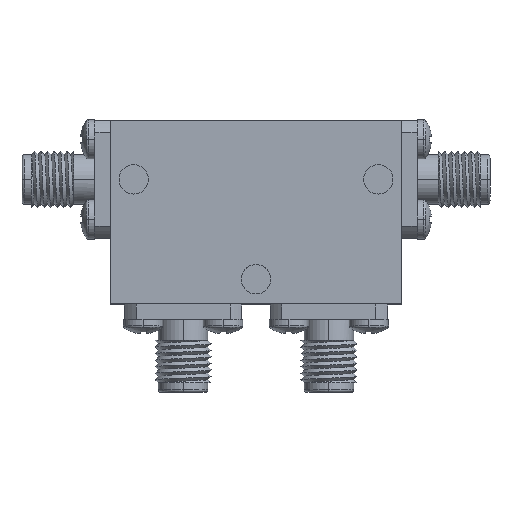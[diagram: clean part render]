
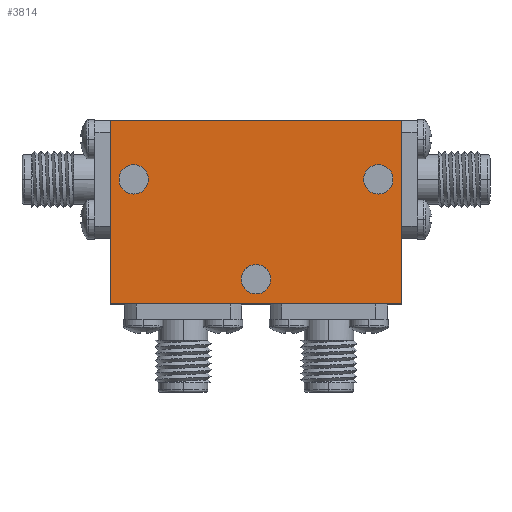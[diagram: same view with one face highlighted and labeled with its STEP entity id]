
A CAD part, top view. The second image highlights one B-rep face of the part: STEP entity #3814.
In plain terms, the highlighted planar face has unit normal (0, 0, 1).
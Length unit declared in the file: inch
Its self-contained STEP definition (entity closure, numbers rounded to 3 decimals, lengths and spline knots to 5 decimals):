
#72 = EDGE_CURVE ( 'NONE', #1441, #2003, #3318, .T. ) ;
#84 = CARTESIAN_POINT ( 'NONE',  ( -0.62, -0.39, 0.25 ) ) ;
#116 = ORIENTED_EDGE ( 'NONE', *, *, #3579, .F. ) ;
#128 = VERTEX_POINT ( 'NONE', #2530 ) ;
#136 = EDGE_CURVE ( 'NONE', #2542, #3830, #1531, .T. ) ;
#142 = DIRECTION ( 'NONE',  ( 1., 0., 0. ) ) ;
#237 = ORIENTED_EDGE ( 'NONE', *, *, #3018, .T. ) ;
#250 = VECTOR ( 'NONE', #2121, 39.37008 ) ;
#255 = ORIENTED_EDGE ( 'NONE', *, *, #2387, .F. ) ;
#257 = PLANE ( 'NONE',  #2632 ) ;
#288 = CARTESIAN_POINT ( 'NONE',  ( 0.52, 0.14, 0.25 ) ) ;
#360 = VECTOR ( 'NONE', #427, 39.37008 ) ;
#377 = CARTESIAN_POINT ( 'NONE',  ( -0.5825, 0.14, 0.25 ) ) ;
#382 = ORIENTED_EDGE ( 'NONE', *, *, #72, .F. ) ;
#400 = AXIS2_PLACEMENT_3D ( 'NONE', #288, #2020, #3823 ) ;
#427 = DIRECTION ( 'NONE',  ( 1., 0., 0. ) ) ;
#448 = LINE ( 'NONE', #84, #360 ) ;
#454 = CARTESIAN_POINT ( 'NONE',  ( -0.62, 0.39, 0.25 ) ) ;
#520 = CARTESIAN_POINT ( 'NONE',  ( 0.5825, 0.14, 0.25 ) ) ;
#532 = DIRECTION ( 'NONE',  ( 0., 0., 1. ) ) ;
#556 = CARTESIAN_POINT ( 'NONE',  ( 0., -0.285, 0.25 ) ) ;
#615 = AXIS2_PLACEMENT_3D ( 'NONE', #1278, #1561, #142 ) ;
#635 = VECTOR ( 'NONE', #2834, 39.37008 ) ;
#661 = CARTESIAN_POINT ( 'NONE',  ( 0., -0.285, 0.25 ) ) ;
#663 = AXIS2_PLACEMENT_3D ( 'NONE', #556, #890, #3583 ) ;
#757 = EDGE_LOOP ( 'NONE', ( #2874, #116 ) ) ;
#758 = CARTESIAN_POINT ( 'NONE',  ( 0.62, 0.39, 0.25 ) ) ;
#797 = CARTESIAN_POINT ( 'NONE',  ( -0.52, 0.14, 0.25 ) ) ;
#861 = CIRCLE ( 'NONE', #615, 0.0625 ) ;
#890 = DIRECTION ( 'NONE',  ( 0., 0., 1. ) ) ;
#968 = VERTEX_POINT ( 'NONE', #1453 ) ;
#1043 = EDGE_CURVE ( 'NONE', #2003, #1441, #2095, .T. ) ;
#1138 = CARTESIAN_POINT ( 'NONE',  ( -0.52, 0.14, 0.25 ) ) ;
#1168 = DIRECTION ( 'NONE',  ( 0., 0., 1. ) ) ;
#1178 = EDGE_LOOP ( 'NONE', ( #255, #2326 ) ) ;
#1188 = LINE ( 'NONE', #758, #3672 ) ;
#1197 = DIRECTION ( 'NONE',  ( 1., 0., 0. ) ) ;
#1278 = CARTESIAN_POINT ( 'NONE',  ( 0.52, 0.14, 0.25 ) ) ;
#1441 = VERTEX_POINT ( 'NONE', #2043 ) ;
#1453 = CARTESIAN_POINT ( 'NONE',  ( 0.4575, 0.14, 0.25 ) ) ;
#1468 = CARTESIAN_POINT ( 'NONE',  ( -0.62, 0.39, 0.25 ) ) ;
#1482 = CARTESIAN_POINT ( 'NONE',  ( 0.62, -0.39, 0.25 ) ) ;
#1483 = ORIENTED_EDGE ( 'NONE', *, *, #1043, .F. ) ;
#1507 = EDGE_CURVE ( 'NONE', #968, #2065, #861, .T. ) ;
#1531 = LINE ( 'NONE', #454, #635 ) ;
#1561 = DIRECTION ( 'NONE',  ( 0., 0., 1. ) ) ;
#1568 = DIRECTION ( 'NONE',  ( 0., 0., 1. ) ) ;
#1581 = EDGE_CURVE ( 'NONE', #128, #2414, #448, .T. ) ;
#1703 = DIRECTION ( 'NONE',  ( 0., 0., 1. ) ) ;
#1787 = FACE_BOUND ( 'NONE', #3351, .T. ) ;
#1802 = CARTESIAN_POINT ( 'NONE',  ( -0.4575, 0.14, 0.25 ) ) ;
#1868 = EDGE_CURVE ( 'NONE', #2414, #2542, #1188, .T. ) ;
#1924 = ORIENTED_EDGE ( 'NONE', *, *, #136, .T. ) ;
#1953 = DIRECTION ( 'NONE',  ( 1., 0., 0. ) ) ;
#1992 = DIRECTION ( 'NONE',  ( 0., 1., 0. ) ) ;
#2003 = VERTEX_POINT ( 'NONE', #3567 ) ;
#2020 = DIRECTION ( 'NONE',  ( 0., 0., 1. ) ) ;
#2032 = VERTEX_POINT ( 'NONE', #1802 ) ;
#2043 = CARTESIAN_POINT ( 'NONE',  ( -0.0625, -0.285, 0.25 ) ) ;
#2055 = AXIS2_PLACEMENT_3D ( 'NONE', #1138, #1168, #1197 ) ;
#2065 = VERTEX_POINT ( 'NONE', #520 ) ;
#2095 = CIRCLE ( 'NONE', #663, 0.0625 ) ;
#2114 = CIRCLE ( 'NONE', #2055, 0.0625 ) ;
#2121 = DIRECTION ( 'NONE',  ( 0., -1., 0. ) ) ;
#2129 = ORIENTED_EDGE ( 'NONE', *, *, #1581, .T. ) ;
#2130 = AXIS2_PLACEMENT_3D ( 'NONE', #797, #1703, #1953 ) ;
#2326 = ORIENTED_EDGE ( 'NONE', *, *, #1507, .F. ) ;
#2387 = EDGE_CURVE ( 'NONE', #2065, #968, #3686, .T. ) ;
#2414 = VERTEX_POINT ( 'NONE', #1482 ) ;
#2530 = CARTESIAN_POINT ( 'NONE',  ( -0.62, -0.39, 0.25 ) ) ;
#2539 = EDGE_LOOP ( 'NONE', ( #3487, #1924, #237, #2129 ) ) ;
#2542 = VERTEX_POINT ( 'NONE', #2925 ) ;
#2632 = AXIS2_PLACEMENT_3D ( 'NONE', #3539, #532, #2968 ) ;
#2657 = FACE_OUTER_BOUND ( 'NONE', #2539, .T. ) ;
#2750 = DIRECTION ( 'NONE',  ( 1., 0., 0. ) ) ;
#2834 = DIRECTION ( 'NONE',  ( -1., 0., 0. ) ) ;
#2854 = FACE_BOUND ( 'NONE', #757, .T. ) ;
#2874 = ORIENTED_EDGE ( 'NONE', *, *, #3295, .F. ) ;
#2911 = LINE ( 'NONE', #3376, #250 ) ;
#2925 = CARTESIAN_POINT ( 'NONE',  ( 0.62, 0.39, 0.25 ) ) ;
#2968 = DIRECTION ( 'NONE',  ( 1., 0., 0. ) ) ;
#2970 = VERTEX_POINT ( 'NONE', #377 ) ;
#3018 = EDGE_CURVE ( 'NONE', #3830, #128, #2911, .T. ) ;
#3188 = FACE_BOUND ( 'NONE', #1178, .T. ) ;
#3295 = EDGE_CURVE ( 'NONE', #2032, #2970, #3647, .T. ) ;
#3318 = CIRCLE ( 'NONE', #3377, 0.0625 ) ;
#3351 = EDGE_LOOP ( 'NONE', ( #1483, #382 ) ) ;
#3376 = CARTESIAN_POINT ( 'NONE',  ( -0.62, 0.39, 0.25 ) ) ;
#3377 = AXIS2_PLACEMENT_3D ( 'NONE', #661, #1568, #2750 ) ;
#3487 = ORIENTED_EDGE ( 'NONE', *, *, #1868, .T. ) ;
#3539 = CARTESIAN_POINT ( 'NONE',  ( 0., 0., 0.25 ) ) ;
#3567 = CARTESIAN_POINT ( 'NONE',  ( 0.0625, -0.285, 0.25 ) ) ;
#3579 = EDGE_CURVE ( 'NONE', #2970, #2032, #2114, .T. ) ;
#3583 = DIRECTION ( 'NONE',  ( 1., 0., 0. ) ) ;
#3647 = CIRCLE ( 'NONE', #2130, 0.0625 ) ;
#3672 = VECTOR ( 'NONE', #1992, 39.37008 ) ;
#3686 = CIRCLE ( 'NONE', #400, 0.0625 ) ;
#3814 = ADVANCED_FACE ( 'NONE', ( #3188, #1787, #2854, #2657 ), #257, .T. ) ;
#3823 = DIRECTION ( 'NONE',  ( 1., 0., 0. ) ) ;
#3830 = VERTEX_POINT ( 'NONE', #1468 ) ;
